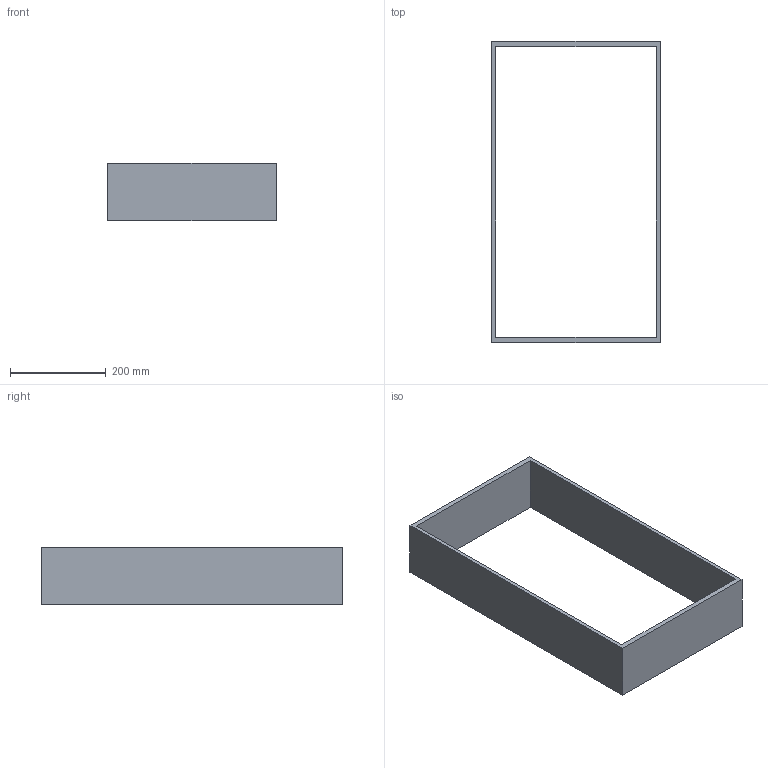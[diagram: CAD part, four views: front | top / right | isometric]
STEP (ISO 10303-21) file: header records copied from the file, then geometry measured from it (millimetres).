
FILE_DESCRIPTION (( 'STEP AP214' ), '1' );
FILE_NAME ('Vario Multi H120 NL650_B450_19 mm_Alu-Buche.step', '2010-10-08T09:47:49', ( 'grass' ), ( '' ), 'SwSTEP 2.0', 'SolidWorks 2010', '' );
FILE_SCHEMA (( 'AUTOMOTIVE_DESIGN' ));
Length unit declared in the file: millimetre
Products named in the file (1): Vario Multi H120 NL650_B450_19 mm_Alu-Buche
Bounding box: 352 x 629 x 120 mm (x, y, z)
Volume: 2094720 mm3; surface area: 496672 mm2
Topology: 1 solids, 1 shells, 10 faces, 24 edges, 16 vertices
Faces by surface type: plane 10
Entity records: 326 total; most frequent: CARTESIAN_POINT 51, ORIENTED_EDGE 48, DIRECTION 46, VECTOR 24, LINE 24, EDGE_CURVE 24, VERTEX_POINT 16, EDGE_LOOP 12
